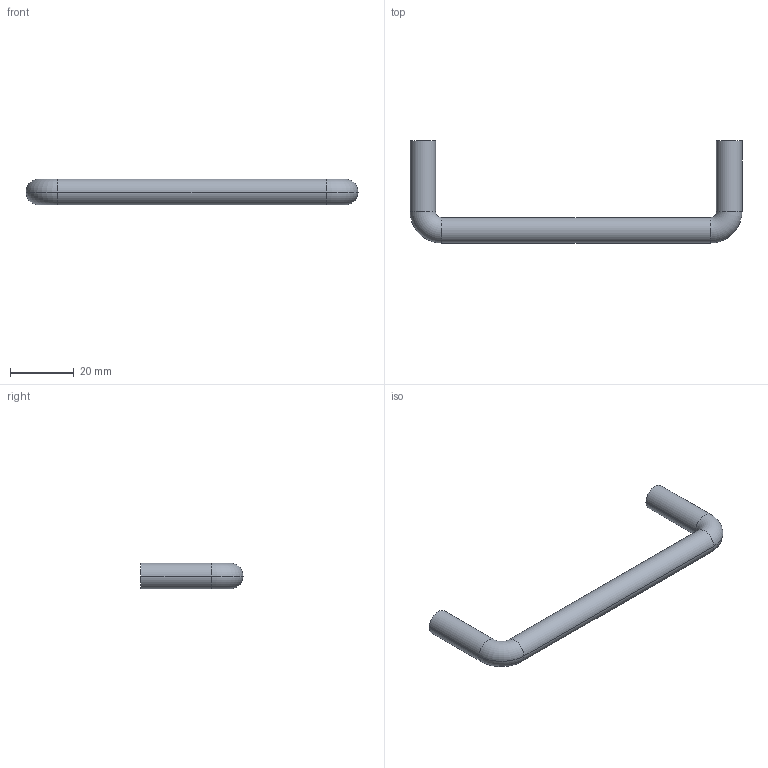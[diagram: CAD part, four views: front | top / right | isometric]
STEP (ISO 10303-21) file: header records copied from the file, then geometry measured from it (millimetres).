
FILE_DESCRIPTION( ( '' ), '1' );
FILE_NAME( 'C:/Documents and Settings/Sachin/Desktop/Sheet 10_1/stp/9069942.stp', '2013-10-22T08:24:10', ( '' ), ( '' ), ' ', ' ', ' ' );
FILE_SCHEMA( ( 'CONFIG_CONTROL_DESIGN' ) );
Length unit declared in the file: millimetre
Products named in the file (1): 1
Bounding box: 104 x 32 x 8 mm (x, y, z)
Volume: 7130.1 mm3; surface area: 4042.6 mm2
Topology: 1 solids, 1 shells, 18 faces, 34 edges, 20 vertices
Faces by surface type: cylinder 10, torus 4, plane 4
Entity records: 502 total; most frequent: DIRECTION 96, CARTESIAN_POINT 73, ORIENTED_EDGE 68, AXIS2_PLACEMENT_3D 43, EDGE_CURVE 34, CIRCLE 24, EDGE_LOOP 20, VERTEX_POINT 20
